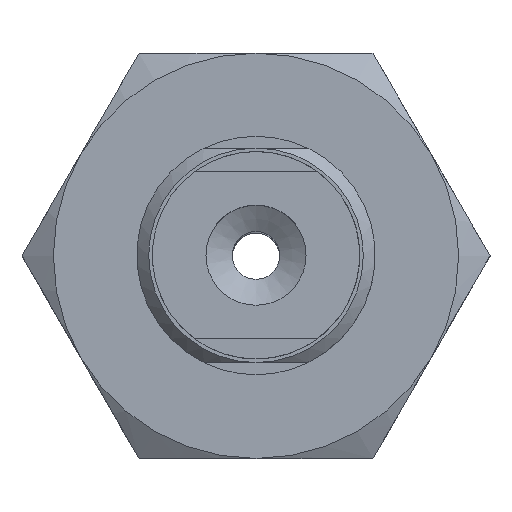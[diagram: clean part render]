
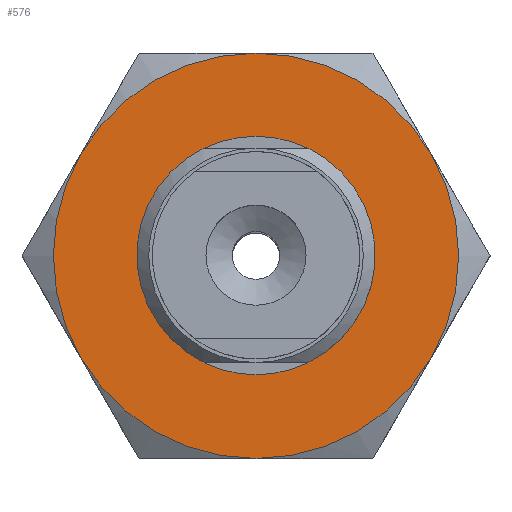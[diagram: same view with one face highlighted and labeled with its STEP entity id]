
A CAD part, top view. The second image highlights one B-rep face of the part: STEP entity #576.
In plain terms, the highlighted planar face has unit normal (0, 0, 1).
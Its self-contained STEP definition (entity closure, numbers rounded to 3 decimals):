
#576=ADVANCED_FACE('',(#839,#840),#841,.T.);
#839=FACE_BOUND('',#1219,.T.);
#840=FACE_OUTER_BOUND('',#1220,.T.);
#841=PLANE('',#1221);
#1219=EDGE_LOOP('',(#1891));
#1220=EDGE_LOOP('',(#1892,#1893,#1894,#1895,#1896,#1897));
#1221=AXIS2_PLACEMENT_3D('',#1898,#1899,#1900);
#1891=ORIENTED_EDGE('',*,*,#2680,.F.);
#1892=ORIENTED_EDGE('',*,*,#2685,.F.);
#1893=ORIENTED_EDGE('',*,*,#2687,.F.);
#1894=ORIENTED_EDGE('',*,*,#2666,.F.);
#1895=ORIENTED_EDGE('',*,*,#2661,.F.);
#1896=ORIENTED_EDGE('',*,*,#2689,.F.);
#1897=ORIENTED_EDGE('',*,*,#2686,.F.);
#1898=CARTESIAN_POINT('',(-9.815,-8.5,4.0));
#1899=DIRECTION('',(0.0,0.0,1.0));
#1900=DIRECTION('',(1.0,0.0,0.0));
#2661=EDGE_CURVE('',#3048,#3051,#3052,.T.);
#2666=EDGE_CURVE('',#3051,#3036,#3058,.T.);
#2680=EDGE_CURVE('',#3082,#3082,#3083,.T.);
#2685=EDGE_CURVE('',#3077,#3086,#3089,.T.);
#2686=EDGE_CURVE('',#3086,#3071,#3090,.T.);
#2687=EDGE_CURVE('',#3036,#3077,#3091,.T.);
#2689=EDGE_CURVE('',#3071,#3048,#3093,.T.);
#3036=VERTEX_POINT('',#3714);
#3048=VERTEX_POINT('',#3744);
#3051=VERTEX_POINT('',#3755);
#3052=CIRCLE('',#3756,8.5);
#3058=CIRCLE('',#3778,8.5);
#3071=VERTEX_POINT('',#3808);
#3077=VERTEX_POINT('',#3827);
#3082=VERTEX_POINT('',#3840);
#3083=CIRCLE('',#3841,4.5);
#3086=VERTEX_POINT('',#3848);
#3089=CIRCLE('',#3859,8.5);
#3090=CIRCLE('',#3860,8.5);
#3091=CIRCLE('',#3861,8.5);
#3093=CIRCLE('',#3863,8.5);
#3714=CARTESIAN_POINT('',(7.361,-4.25,4.0));
#3744=CARTESIAN_POINT('',(0.,8.5,4.0));
#3755=CARTESIAN_POINT('',(7.361,4.25,4.0));
#3756=AXIS2_PLACEMENT_3D('',#4452,#4453,#4454);
#3778=AXIS2_PLACEMENT_3D('',#4455,#4456,#4457);
#3808=CARTESIAN_POINT('',(-7.361,4.25,4.0));
#3827=CARTESIAN_POINT('',(0.,-8.5,4.0));
#3840=CARTESIAN_POINT('',(0.0,-4.5,4.0));
#3841=AXIS2_PLACEMENT_3D('',#4466,#4467,#4468);
#3848=CARTESIAN_POINT('',(-7.361,-4.25,4.0));
#3859=AXIS2_PLACEMENT_3D('',#4472,#4473,#4474);
#3860=AXIS2_PLACEMENT_3D('',#4475,#4476,#4477);
#3861=AXIS2_PLACEMENT_3D('',#4478,#4479,#4480);
#3863=AXIS2_PLACEMENT_3D('',#4484,#4485,#4486);
#4452=CARTESIAN_POINT('',(0.,0.,4.0));
#4453=DIRECTION('',(0.,0.,-1.0));
#4454=DIRECTION('',(0.866,0.5,0.));
#4455=CARTESIAN_POINT('',(0.,0.,4.0));
#4456=DIRECTION('',(0.,0.,-1.0));
#4457=DIRECTION('',(0.866,0.5,0.));
#4466=CARTESIAN_POINT('',(0.0,0.0,4.0));
#4467=DIRECTION('',(0.0,0.,1.0));
#4468=DIRECTION('',(0.0,-1.0,0.));
#4472=CARTESIAN_POINT('',(0.,0.,4.0));
#4473=DIRECTION('',(0.,0.,-1.0));
#4474=DIRECTION('',(0.866,0.5,0.));
#4475=CARTESIAN_POINT('',(0.,0.,4.0));
#4476=DIRECTION('',(0.,0.,-1.0));
#4477=DIRECTION('',(0.866,0.5,0.));
#4478=CARTESIAN_POINT('',(0.,0.,4.0));
#4479=DIRECTION('',(0.,0.,-1.0));
#4480=DIRECTION('',(0.866,0.5,0.));
#4484=CARTESIAN_POINT('',(0.,0.,4.0));
#4485=DIRECTION('',(0.,0.,-1.0));
#4486=DIRECTION('',(0.866,0.5,0.));
